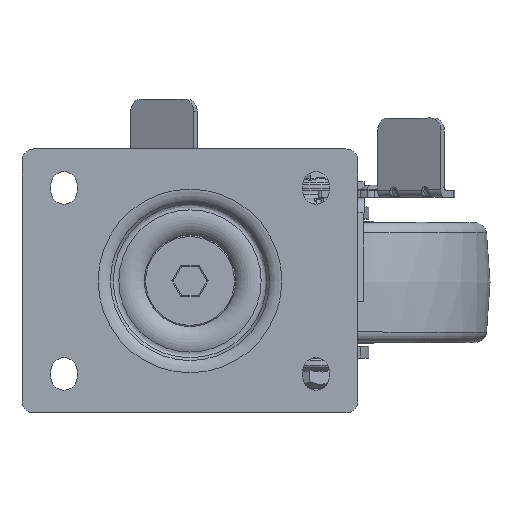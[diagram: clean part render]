
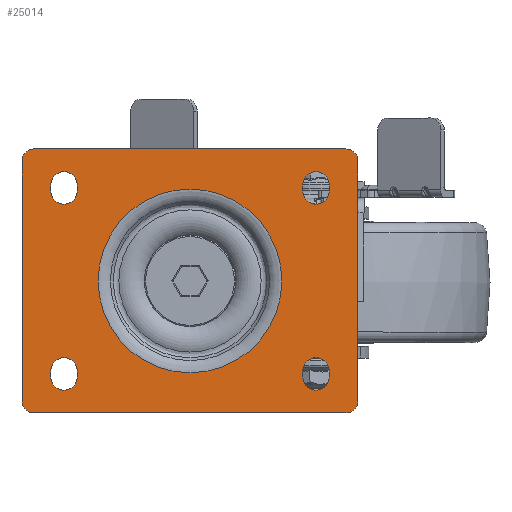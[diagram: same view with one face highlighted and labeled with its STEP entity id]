
A CAD part, top view. The second image highlights one B-rep face of the part: STEP entity #25014.
In plain terms, the highlighted planar face has unit normal (0, 0, 1).
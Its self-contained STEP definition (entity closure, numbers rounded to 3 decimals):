
#24784=CARTESIAN_POINT('',(-168.333,542.205,6.396));
#24785=DIRECTION('',(0.0,0.0,1.0));
#24786=DIRECTION('',(0.0,-1.0,0.0));
#24787=AXIS2_PLACEMENT_3D('',#24784,#24785,#24786);
#24788=PLANE('',#24787);
#24789=CARTESIAN_POINT('',(-66.085,597.205,6.396));
#24790=VERTEX_POINT('',#24789);
#24791=CARTESIAN_POINT('',(-196.085,597.205,6.396));
#24792=VERTEX_POINT('',#24791);
#24793=CARTESIAN_POINT('',(-66.085,597.205,6.396));
#24794=DIRECTION('',(-1.0,0.0,0.0));
#24795=VECTOR('',#24794,130.);
#24796=LINE('',#24793,#24795);
#24797=EDGE_CURVE('',#24790,#24792,#24796,.T.);
#24798=ORIENTED_EDGE('',*,*,#24797,.T.);
#24799=CARTESIAN_POINT('',(-201.085,592.205,6.396));
#24800=VERTEX_POINT('',#24799);
#24801=CARTESIAN_POINT('',(-196.085,592.205,6.396));
#24802=DIRECTION('',(0.0,0.0,1.0));
#24803=DIRECTION('',(1.0,0.0,0.0));
#24804=AXIS2_PLACEMENT_3D('',#24801,#24802,#24803);
#24805=CIRCLE('',#24804,5.0);
#24806=EDGE_CURVE('',#24792,#24800,#24805,.T.);
#24807=ORIENTED_EDGE('',*,*,#24806,.T.);
#24808=CARTESIAN_POINT('',(-201.085,492.205,6.396));
#24809=VERTEX_POINT('',#24808);
#24810=CARTESIAN_POINT('',(-201.085,592.205,6.396));
#24811=DIRECTION('',(0.0,-1.0,0.0));
#24812=VECTOR('',#24811,100.);
#24813=LINE('',#24810,#24812);
#24814=EDGE_CURVE('',#24800,#24809,#24813,.T.);
#24815=ORIENTED_EDGE('',*,*,#24814,.T.);
#24816=CARTESIAN_POINT('',(-196.085,487.205,6.396));
#24817=VERTEX_POINT('',#24816);
#24818=CARTESIAN_POINT('',(-196.085,492.205,6.396));
#24819=DIRECTION('',(0.0,0.0,1.0));
#24820=DIRECTION('',(1.0,0.0,0.0));
#24821=AXIS2_PLACEMENT_3D('',#24818,#24819,#24820);
#24822=CIRCLE('',#24821,5.0);
#24823=EDGE_CURVE('',#24809,#24817,#24822,.T.);
#24824=ORIENTED_EDGE('',*,*,#24823,.T.);
#24825=CARTESIAN_POINT('',(-66.085,487.205,6.396));
#24826=VERTEX_POINT('',#24825);
#24827=CARTESIAN_POINT('',(-196.085,487.205,6.396));
#24828=DIRECTION('',(1.0,0.0,0.0));
#24829=VECTOR('',#24828,130.);
#24830=LINE('',#24827,#24829);
#24831=EDGE_CURVE('',#24817,#24826,#24830,.T.);
#24832=ORIENTED_EDGE('',*,*,#24831,.T.);
#24833=CARTESIAN_POINT('',(-61.085,492.205,6.396));
#24834=VERTEX_POINT('',#24833);
#24835=CARTESIAN_POINT('',(-66.085,492.205,6.396));
#24836=DIRECTION('',(0.0,0.0,1.0));
#24837=DIRECTION('',(1.0,0.0,0.0));
#24838=AXIS2_PLACEMENT_3D('',#24835,#24836,#24837);
#24839=CIRCLE('',#24838,5.0);
#24840=EDGE_CURVE('',#24826,#24834,#24839,.T.);
#24841=ORIENTED_EDGE('',*,*,#24840,.T.);
#24842=CARTESIAN_POINT('',(-61.085,592.205,6.396));
#24843=VERTEX_POINT('',#24842);
#24844=CARTESIAN_POINT('',(-61.085,492.205,6.396));
#24845=DIRECTION('',(0.0,1.0,0.0));
#24846=VECTOR('',#24845,100.);
#24847=LINE('',#24844,#24846);
#24848=EDGE_CURVE('',#24834,#24843,#24847,.T.);
#24849=ORIENTED_EDGE('',*,*,#24848,.T.);
#24850=CARTESIAN_POINT('',(-66.085,592.205,6.396));
#24851=DIRECTION('',(0.0,0.0,1.0));
#24852=DIRECTION('',(1.0,0.0,0.0));
#24853=AXIS2_PLACEMENT_3D('',#24850,#24851,#24852);
#24854=CIRCLE('',#24853,5.0);
#24855=EDGE_CURVE('',#24843,#24790,#24854,.T.);
#24856=ORIENTED_EDGE('',*,*,#24855,.T.);
#24857=EDGE_LOOP('',(#24798,#24807,#24815,#24824,#24832,#24841,#24849,#24856));
#24858=FACE_OUTER_BOUND('',#24857,.T.);
#24859=CARTESIAN_POINT('',(-189.085,582.205,6.396));
#24860=VERTEX_POINT('',#24859);
#24861=CARTESIAN_POINT('',(-178.085,582.205,6.396));
#24862=VERTEX_POINT('',#24861);
#24863=CARTESIAN_POINT('',(-183.585,582.205,6.396));
#24864=DIRECTION('',(0.0,0.0,-1.0));
#24865=DIRECTION('',(1.0,0.0,0.0));
#24866=AXIS2_PLACEMENT_3D('',#24863,#24864,#24865);
#24867=CIRCLE('',#24866,5.5);
#24868=EDGE_CURVE('',#24860,#24862,#24867,.T.);
#24869=ORIENTED_EDGE('',*,*,#24868,.T.);
#24870=CARTESIAN_POINT('',(-178.085,579.705,6.396));
#24871=VERTEX_POINT('',#24870);
#24872=CARTESIAN_POINT('',(-178.085,582.205,6.396));
#24873=DIRECTION('',(0.0,-1.0,0.0));
#24874=VECTOR('',#24873,2.5);
#24875=LINE('',#24872,#24874);
#24876=EDGE_CURVE('',#24862,#24871,#24875,.T.);
#24877=ORIENTED_EDGE('',*,*,#24876,.T.);
#24878=CARTESIAN_POINT('',(-189.085,579.705,6.396));
#24879=VERTEX_POINT('',#24878);
#24880=CARTESIAN_POINT('',(-183.585,579.705,6.396));
#24881=DIRECTION('',(0.0,0.0,-1.0));
#24882=DIRECTION('',(1.0,0.0,0.0));
#24883=AXIS2_PLACEMENT_3D('',#24880,#24881,#24882);
#24884=CIRCLE('',#24883,5.5);
#24885=EDGE_CURVE('',#24871,#24879,#24884,.T.);
#24886=ORIENTED_EDGE('',*,*,#24885,.T.);
#24887=CARTESIAN_POINT('',(-189.085,579.705,6.396));
#24888=DIRECTION('',(0.0,1.0,0.0));
#24889=VECTOR('',#24888,2.5);
#24890=LINE('',#24887,#24889);
#24891=EDGE_CURVE('',#24879,#24860,#24890,.T.);
#24892=ORIENTED_EDGE('',*,*,#24891,.T.);
#24893=EDGE_LOOP('',(#24869,#24877,#24886,#24892));
#24894=FACE_BOUND('',#24893,.T.);
#24895=CARTESIAN_POINT('',(-73.085,579.705,6.396));
#24896=VERTEX_POINT('',#24895);
#24897=CARTESIAN_POINT('',(-84.085,579.705,6.396));
#24898=VERTEX_POINT('',#24897);
#24899=CARTESIAN_POINT('',(-78.585,579.705,6.396));
#24900=DIRECTION('',(0.0,0.0,-1.0));
#24901=DIRECTION('',(1.0,0.0,0.0));
#24902=AXIS2_PLACEMENT_3D('',#24899,#24900,#24901);
#24903=CIRCLE('',#24902,5.5);
#24904=EDGE_CURVE('',#24896,#24898,#24903,.T.);
#24905=ORIENTED_EDGE('',*,*,#24904,.T.);
#24906=CARTESIAN_POINT('',(-84.085,582.205,6.396));
#24907=VERTEX_POINT('',#24906);
#24908=CARTESIAN_POINT('',(-84.085,579.705,6.396));
#24909=DIRECTION('',(0.0,1.0,0.0));
#24910=VECTOR('',#24909,2.5);
#24911=LINE('',#24908,#24910);
#24912=EDGE_CURVE('',#24898,#24907,#24911,.T.);
#24913=ORIENTED_EDGE('',*,*,#24912,.T.);
#24914=CARTESIAN_POINT('',(-73.085,582.205,6.396));
#24915=VERTEX_POINT('',#24914);
#24916=CARTESIAN_POINT('',(-78.585,582.205,6.396));
#24917=DIRECTION('',(0.0,0.0,-1.0));
#24918=DIRECTION('',(1.0,0.0,0.0));
#24919=AXIS2_PLACEMENT_3D('',#24916,#24917,#24918);
#24920=CIRCLE('',#24919,5.5);
#24921=EDGE_CURVE('',#24907,#24915,#24920,.T.);
#24922=ORIENTED_EDGE('',*,*,#24921,.T.);
#24923=CARTESIAN_POINT('',(-73.085,582.205,6.396));
#24924=DIRECTION('',(0.0,-1.0,0.0));
#24925=VECTOR('',#24924,2.5);
#24926=LINE('',#24923,#24925);
#24927=EDGE_CURVE('',#24915,#24896,#24926,.T.);
#24928=ORIENTED_EDGE('',*,*,#24927,.T.);
#24929=EDGE_LOOP('',(#24905,#24913,#24922,#24928));
#24930=FACE_BOUND('',#24929,.T.);
#24931=CARTESIAN_POINT('',(-73.085,502.205,6.396));
#24932=VERTEX_POINT('',#24931);
#24933=CARTESIAN_POINT('',(-84.085,502.205,6.396));
#24934=VERTEX_POINT('',#24933);
#24935=CARTESIAN_POINT('',(-78.585,502.205,6.396));
#24936=DIRECTION('',(0.0,0.0,-1.0));
#24937=DIRECTION('',(1.0,0.0,0.0));
#24938=AXIS2_PLACEMENT_3D('',#24935,#24936,#24937);
#24939=CIRCLE('',#24938,5.5);
#24940=EDGE_CURVE('',#24932,#24934,#24939,.T.);
#24941=ORIENTED_EDGE('',*,*,#24940,.T.);
#24942=CARTESIAN_POINT('',(-84.085,504.705,6.396));
#24943=VERTEX_POINT('',#24942);
#24944=CARTESIAN_POINT('',(-84.085,502.205,6.396));
#24945=DIRECTION('',(0.0,1.0,0.0));
#24946=VECTOR('',#24945,2.5);
#24947=LINE('',#24944,#24946);
#24948=EDGE_CURVE('',#24934,#24943,#24947,.T.);
#24949=ORIENTED_EDGE('',*,*,#24948,.T.);
#24950=CARTESIAN_POINT('',(-73.085,504.705,6.396));
#24951=VERTEX_POINT('',#24950);
#24952=CARTESIAN_POINT('',(-78.585,504.705,6.396));
#24953=DIRECTION('',(0.0,0.0,-1.0));
#24954=DIRECTION('',(1.0,0.0,0.0));
#24955=AXIS2_PLACEMENT_3D('',#24952,#24953,#24954);
#24956=CIRCLE('',#24955,5.5);
#24957=EDGE_CURVE('',#24943,#24951,#24956,.T.);
#24958=ORIENTED_EDGE('',*,*,#24957,.T.);
#24959=CARTESIAN_POINT('',(-73.085,504.705,6.396));
#24960=DIRECTION('',(0.0,-1.0,0.0));
#24961=VECTOR('',#24960,2.5);
#24962=LINE('',#24959,#24961);
#24963=EDGE_CURVE('',#24951,#24932,#24962,.T.);
#24964=ORIENTED_EDGE('',*,*,#24963,.T.);
#24965=EDGE_LOOP('',(#24941,#24949,#24958,#24964));
#24966=FACE_BOUND('',#24965,.T.);
#24967=CARTESIAN_POINT('',(-189.085,504.705,6.396));
#24968=VERTEX_POINT('',#24967);
#24969=CARTESIAN_POINT('',(-178.085,504.705,6.396));
#24970=VERTEX_POINT('',#24969);
#24971=CARTESIAN_POINT('',(-183.585,504.705,6.396));
#24972=DIRECTION('',(0.0,0.0,-1.0));
#24973=DIRECTION('',(1.0,0.0,0.0));
#24974=AXIS2_PLACEMENT_3D('',#24971,#24972,#24973);
#24975=CIRCLE('',#24974,5.5);
#24976=EDGE_CURVE('',#24968,#24970,#24975,.T.);
#24977=ORIENTED_EDGE('',*,*,#24976,.T.);
#24978=CARTESIAN_POINT('',(-178.085,502.205,6.396));
#24979=VERTEX_POINT('',#24978);
#24980=CARTESIAN_POINT('',(-178.085,504.705,6.396));
#24981=DIRECTION('',(0.0,-1.0,0.0));
#24982=VECTOR('',#24981,2.5);
#24983=LINE('',#24980,#24982);
#24984=EDGE_CURVE('',#24970,#24979,#24983,.T.);
#24985=ORIENTED_EDGE('',*,*,#24984,.T.);
#24986=CARTESIAN_POINT('',(-189.085,502.205,6.396));
#24987=VERTEX_POINT('',#24986);
#24988=CARTESIAN_POINT('',(-183.585,502.205,6.396));
#24989=DIRECTION('',(0.0,0.0,-1.0));
#24990=DIRECTION('',(1.0,0.0,0.0));
#24991=AXIS2_PLACEMENT_3D('',#24988,#24989,#24990);
#24992=CIRCLE('',#24991,5.5);
#24993=EDGE_CURVE('',#24979,#24987,#24992,.T.);
#24994=ORIENTED_EDGE('',*,*,#24993,.T.);
#24995=CARTESIAN_POINT('',(-189.085,502.205,6.396));
#24996=DIRECTION('',(0.0,1.0,0.0));
#24997=VECTOR('',#24996,2.5);
#24998=LINE('',#24995,#24997);
#24999=EDGE_CURVE('',#24987,#24968,#24998,.T.);
#25000=ORIENTED_EDGE('',*,*,#24999,.T.);
#25001=EDGE_LOOP('',(#24977,#24985,#24994,#25000));
#25002=FACE_BOUND('',#25001,.T.);
#25003=CARTESIAN_POINT('',(-169.358,542.205,6.396));
#25004=VERTEX_POINT('',#25003);
#25005=CARTESIAN_POINT('',(-131.085,542.205,6.396));
#25006=DIRECTION('',(0.0,0.0,1.0));
#25007=DIRECTION('',(-1.0,0.0,0.0));
#25008=AXIS2_PLACEMENT_3D('',#25005,#25006,#25007);
#25009=CIRCLE('',#25008,38.273);
#25010=EDGE_CURVE('',#25004,#25004,#25009,.T.);
#25011=ORIENTED_EDGE('',*,*,#25010,.F.);
#25012=EDGE_LOOP('',(#25011));
#25013=FACE_BOUND('',#25012,.T.);
#25014=ADVANCED_FACE('',(#24858,#24894,#24930,#24966,#25002,#25013),#24788,.T.);
